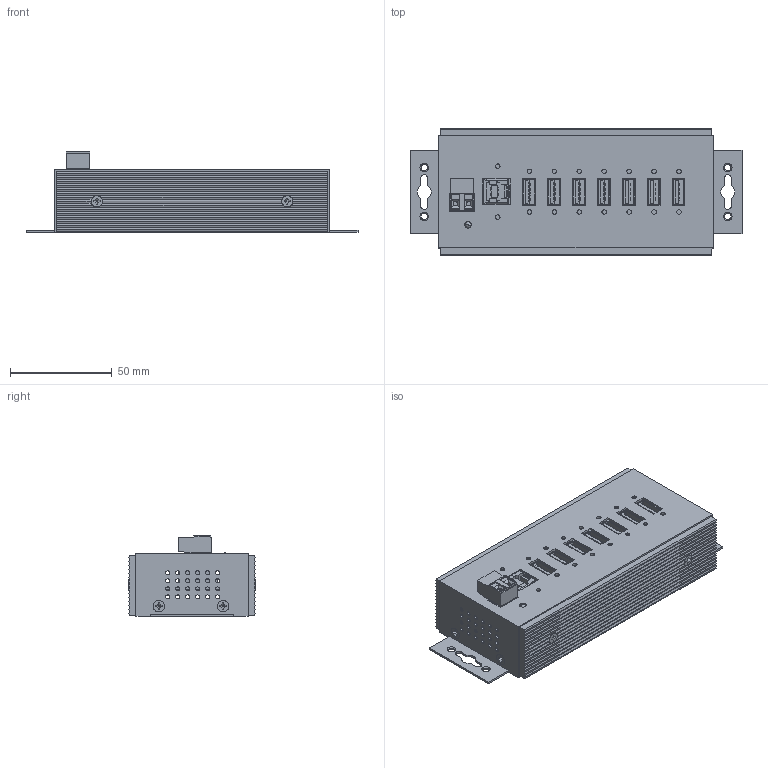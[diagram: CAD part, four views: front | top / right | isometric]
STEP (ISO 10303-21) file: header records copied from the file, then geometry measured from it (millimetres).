
FILE_DESCRIPTION(('FreeCAD Model'),'2;1');
FILE_NAME( 'Y:/Technische Zeichnungen/EX-1187HMVS-WT/EX-1187HMVS-WT_3D.step', '2017-11-15T14:45:06',('Author'),(''), 'Open CASCADE STEP processor 6.8','FreeCAD','Unknown');
FILE_SCHEMA(('AUTOMOTIVE_DESIGN_CC2 { 1 2 10303 214 -1 1 5 4 }'));
Products named in the file (1): EX-1187HMVS-WT_3D
Bounding box: 163 x 62.2 x 39.7 mm (x, y, z)
Volume: 73049 mm3; surface area: 87195.7 mm2
Topology: 5 solids, 5 shells, 3367 faces, 9519 edges, 6259 vertices
Faces by surface type: plane 2470, cylinder 672, cone 144, torus 71, sphere 10
Full cylindrical faces by diameter (mm): 1.95 x48, 2.2 x16, 2.4 x16, 3.12 x2, 3.2 x5, 3.4 x4, 4 x3, 5.35 x4
Entity records: 342776 total; most frequent: CARTESIAN_POINT 139430, DIRECTION 30215, ORIENTED_EDGE 19020, PCURVE 19018, DEFINITIONAL_REPRESENTATION 19018, LINE 18614, VECTOR 18614, EDGE_CURVE 9509
